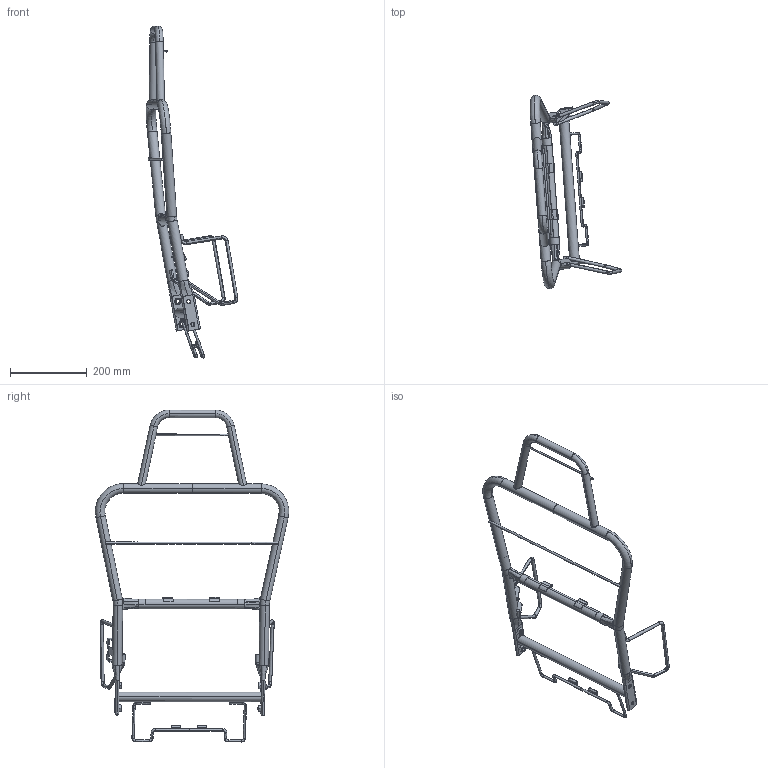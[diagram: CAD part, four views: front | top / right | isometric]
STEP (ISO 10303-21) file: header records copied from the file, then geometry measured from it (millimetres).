
FILE_DESCRIPTION(('CATIA V5 STEP Exchange'),'2;1');
FILE_NAME('C:\Users\Administrator\Desktop\骨架资料\新建文件夹\SHT0015551-2023.2.10.stp','2023-02-10T01:11:46+00:00',('none'),('none'),'CATIA Version 5 Release 20 GA (IN-10)','CATIA V5 STEP AP214','none');
FILE_SCHEMA(('AUTOMOTIVE_DESIGN { 1 0 10303 214 1 1 1 1 }'));
Length unit declared in the file: millimetre
Products named in the file (5): 产品1; SHT0012990; 产品80_AllCATPart; SHT0015058_AllCATPart; Part51
Assembly tree (4 placements, depth 2):
  产品1
    SHT0012990
    产品80_AllCATPart
    SHT0015058_AllCATPart
    Part51
Bounding box: 238.52 x 502.85 x 862.86 mm (x, y, z)
Volume: 552559.1 mm3; surface area: 546137.6 mm2
Topology: 20 solids, 20 shells, 697 faces, 1756 edges, 1114 vertices
Faces by surface type: cylinder 209, bspline 173, plane 155, torus 104, cone 32, extrusion 24
Entity records: 43988 total; most frequent: CARTESIAN_POINT 29590, ORIENTED_EDGE 3466, DIRECTION 1857, EDGE_CURVE 1733, VERTEX_POINT 1082, AXIS2_PLACEMENT_3D 869, EDGE_LOOP 759, ADVANCED_FACE 697
